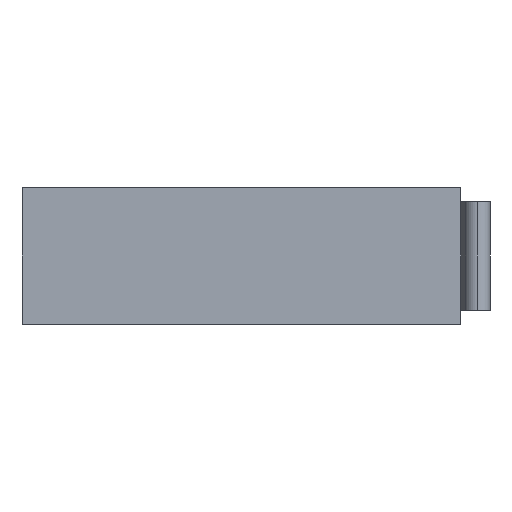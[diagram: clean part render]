
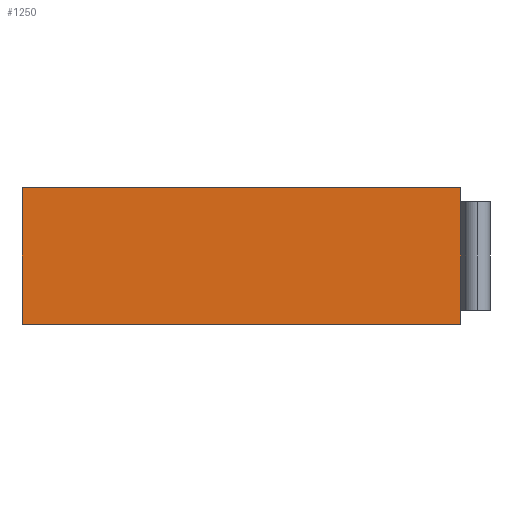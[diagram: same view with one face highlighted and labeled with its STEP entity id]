
A CAD part, left-side view. The second image highlights one B-rep face of the part: STEP entity #1250.
In plain terms, the highlighted planar face has unit normal (-1, 0, 0).
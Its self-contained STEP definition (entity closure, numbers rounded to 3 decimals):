
#41 = LINE ( 'NONE', #688, #1237 ) ;
#196 = AXIS2_PLACEMENT_3D ( 'NONE', #1058, #201, #294 ) ;
#201 = DIRECTION ( 'NONE',  ( 1., 0., 0. ) ) ;
#226 = FACE_OUTER_BOUND ( 'NONE', #1771, .T. ) ;
#294 = DIRECTION ( 'NONE',  ( 0., 0., -1. ) ) ;
#329 = VERTEX_POINT ( 'NONE', #622 ) ;
#356 = LINE ( 'NONE', #503, #482 ) ;
#397 = ORIENTED_EDGE ( 'NONE', *, *, #1459, .T. ) ;
#406 = EDGE_CURVE ( 'NONE', #980, #421, #1082, .T. ) ;
#421 = VERTEX_POINT ( 'NONE', #500 ) ;
#482 = VECTOR ( 'NONE', #937, 1000. ) ;
#500 = CARTESIAN_POINT ( 'NONE',  ( -1.2, 0., -0.8 ) ) ;
#503 = CARTESIAN_POINT ( 'NONE',  ( -1.2, 25.4, -0.8 ) ) ;
#622 = CARTESIAN_POINT ( 'NONE',  ( -1.2, 25.4, 7.1 ) ) ;
#642 = CARTESIAN_POINT ( 'NONE',  ( -1.2, 0., 7.1 ) ) ;
#663 = CARTESIAN_POINT ( 'NONE',  ( -1.2, 25.4, 7.1 ) ) ;
#688 = CARTESIAN_POINT ( 'NONE',  ( -1.2, 0., -0.8 ) ) ;
#783 = DIRECTION ( 'NONE',  ( 0., -1., 0. ) ) ;
#934 = CARTESIAN_POINT ( 'NONE',  ( -1.2, 25.4, -0.8 ) ) ;
#937 = DIRECTION ( 'NONE',  ( 0., 0., 1. ) ) ;
#957 = EDGE_CURVE ( 'NONE', #980, #329, #356, .T. ) ;
#971 = VECTOR ( 'NONE', #783, 1000. ) ;
#980 = VERTEX_POINT ( 'NONE', #1639 ) ;
#1058 = CARTESIAN_POINT ( 'NONE',  ( -1.2, 0., 0. ) ) ;
#1068 = VERTEX_POINT ( 'NONE', #642 ) ;
#1082 = LINE ( 'NONE', #934, #1444 ) ;
#1195 = PLANE ( 'NONE',  #196 ) ;
#1237 = VECTOR ( 'NONE', #1264, 1000. ) ;
#1250 = ADVANCED_FACE ( 'NONE', ( #226 ), #1195, .F. ) ;
#1264 = DIRECTION ( 'NONE',  ( 0., 0., 1. ) ) ;
#1397 = ORIENTED_EDGE ( 'NONE', *, *, #957, .F. ) ;
#1405 = ORIENTED_EDGE ( 'NONE', *, *, #406, .T. ) ;
#1444 = VECTOR ( 'NONE', #1637, 1000. ) ;
#1451 = ORIENTED_EDGE ( 'NONE', *, *, #1682, .F. ) ;
#1459 = EDGE_CURVE ( 'NONE', #421, #1068, #41, .T. ) ;
#1487 = LINE ( 'NONE', #663, #971 ) ;
#1637 = DIRECTION ( 'NONE',  ( 0., -1., 0. ) ) ;
#1639 = CARTESIAN_POINT ( 'NONE',  ( -1.2, 25.4, -0.8 ) ) ;
#1682 = EDGE_CURVE ( 'NONE', #329, #1068, #1487, .T. ) ;
#1771 = EDGE_LOOP ( 'NONE', ( #397, #1451, #1397, #1405 ) ) ;
